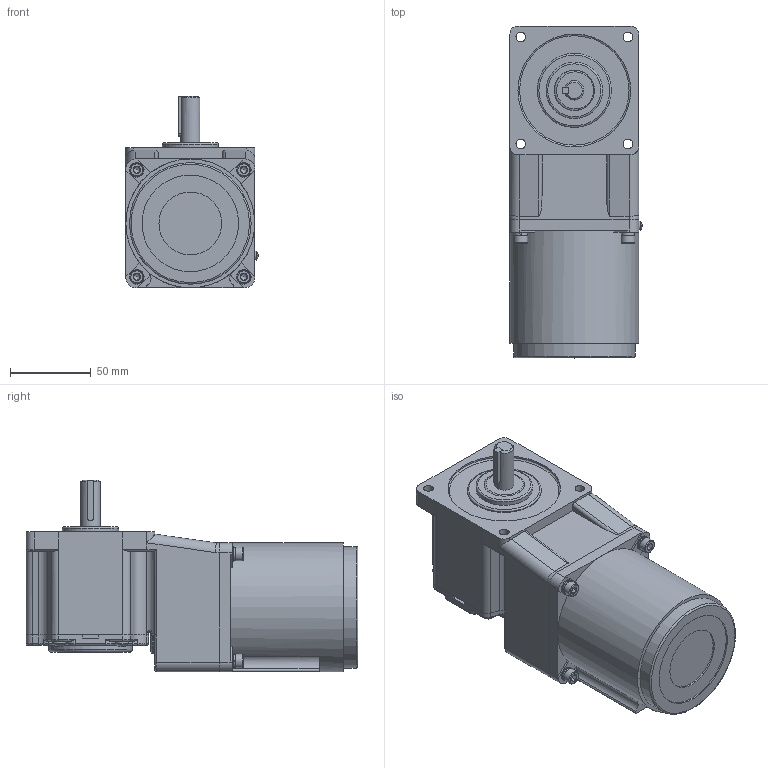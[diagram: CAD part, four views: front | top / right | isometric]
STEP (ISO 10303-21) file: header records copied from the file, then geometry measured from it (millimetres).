
FILE_DESCRIPTION(/* description */ (''),/* implementation_level */ '2;1');
FILE_NAME(/* name */ '80+中实直角-普通-25W.stp',/* time_stamp */ '2022-11-01T12:52:59+08:00',/* author */ (''),/* organization */ (''),/* preprocessor_version */ 'ST-DEVELOPER v16.7',/* originating_system */ 'SIEMENS PLM Software NX 1899',/* authorisation */ '');
FILE_SCHEMA (('AP203_CONFIGURATION_CONTROLLED_3D_DESIGN_OF_MECHANICAL_PARTS_AND_ASSEMBLIES_MIM_LF { 1 0 10303 403 2 1 2}'));
Length unit declared in the file: millimetre
Products named in the file (1): yf1854BC0762njgy
Bounding box: 82.09 x 206 x 119 mm (x, y, z)
Volume: 1117139.2 mm3; surface area: 106760.1 mm2
Topology: 15 solids, 15 shells, 610 faces, 1409 edges, 858 vertices
Faces by surface type: plane 303, cylinder 185, torus 56, cone 42, bspline 14, sphere 10
Full cylindrical faces by diameter (mm): 4.2 x4, 4.826 x4, 5 x8, 5.3 x4, 5.6 x1, 6 x8, 8 x4, 8.5 x4, 9 x4, 12 x1, 25 x1, 35 x1, 39 x1, 46 x1, 52 x1, 56 x1, 60 x1, 70 x1, 75.5 x1, 76 x2, 80 x1
Entity records: 18641 total; most frequent: CARTESIAN_POINT 4108, DIRECTION 2845, ORIENTED_EDGE 2534, EDGE_CURVE 1267, AXIS2_PLACEMENT_3D 1122, VERTEX_POINT 817, EDGE_LOOP 756, ADVANCED_FACE 610
